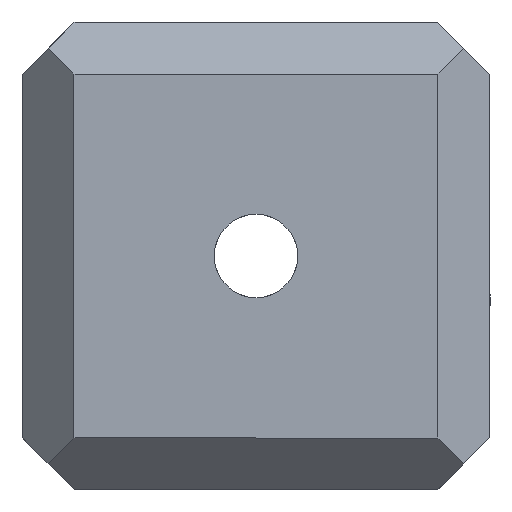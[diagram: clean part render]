
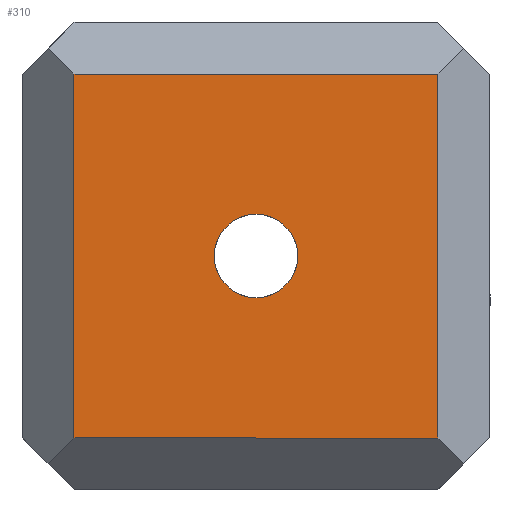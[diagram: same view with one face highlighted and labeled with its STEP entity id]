
A CAD part, left-side view. The second image highlights one B-rep face of the part: STEP entity #310.
In plain terms, the highlighted planar face has unit normal (-1, 0, 0).
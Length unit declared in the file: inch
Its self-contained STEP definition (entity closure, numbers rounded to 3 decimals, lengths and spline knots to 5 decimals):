
#27 = CIRCLE ( 'NONE', #2111, 0.1005 ) ;
#48 = DIRECTION ( 'NONE',  ( -1., 0., 0. ) ) ;
#53 = CARTESIAN_POINT ( 'NONE',  ( -0.5625, 0., 0. ) ) ;
#76 = DIRECTION ( 'NONE',  ( 0., 0., 1. ) ) ;
#179 = VECTOR ( 'NONE', #237, 39.37008 ) ;
#233 = DIRECTION ( 'NONE',  ( 0., -1., 0. ) ) ;
#237 = DIRECTION ( 'NONE',  ( 0., 0., -1. ) ) ;
#251 = CARTESIAN_POINT ( 'NONE',  ( -0.5625, 0., 0.4375 ) ) ;
#310 = ADVANCED_FACE ( 'NONE', ( #1618, #1835 ), #1385, .T. ) ;
#349 = CARTESIAN_POINT ( 'NONE',  ( -0.5625, 0.4375, 0. ) ) ;
#393 = VERTEX_POINT ( 'NONE', #894 ) ;
#427 = VECTOR ( 'NONE', #1506, 39.37008 ) ;
#464 = CARTESIAN_POINT ( 'NONE',  ( -0.5625, -0.4375, 0.4375 ) ) ;
#551 = CARTESIAN_POINT ( 'NONE',  ( -0.5625, 0.4375, 0.4375 ) ) ;
#576 = EDGE_CURVE ( 'NONE', #1101, #393, #752, .T. ) ;
#716 = EDGE_LOOP ( 'NONE', ( #1632, #901, #1621, #1930 ) ) ;
#749 = EDGE_CURVE ( 'NONE', #774, #1556, #27, .T. ) ;
#752 = LINE ( 'NONE', #349, #179 ) ;
#774 = VERTEX_POINT ( 'NONE', #1810 ) ;
#802 = VERTEX_POINT ( 'NONE', #969 ) ;
#804 = DIRECTION ( 'NONE',  ( 0., -1., 0. ) ) ;
#894 = CARTESIAN_POINT ( 'NONE',  ( -0.5625, 0.4375, -0.4375 ) ) ;
#901 = ORIENTED_EDGE ( 'NONE', *, *, #2234, .T. ) ;
#960 = CARTESIAN_POINT ( 'NONE',  ( -0.5625, -0.4375, 0. ) ) ;
#969 = CARTESIAN_POINT ( 'NONE',  ( -0.5625, -0.4375, -0.4375 ) ) ;
#1013 = LINE ( 'NONE', #960, #1579 ) ;
#1079 = AXIS2_PLACEMENT_3D ( 'NONE', #2152, #48, #1864 ) ;
#1101 = VERTEX_POINT ( 'NONE', #551 ) ;
#1114 = EDGE_LOOP ( 'NONE', ( #1843, #1745 ) ) ;
#1201 = EDGE_CURVE ( 'NONE', #393, #802, #1273, .T. ) ;
#1273 = LINE ( 'NONE', #2177, #2250 ) ;
#1300 = VERTEX_POINT ( 'NONE', #464 ) ;
#1305 = DIRECTION ( 'NONE',  ( 0., -1., 0. ) ) ;
#1307 = DIRECTION ( 'NONE',  ( -1., 0., 0. ) ) ;
#1314 = CARTESIAN_POINT ( 'NONE',  ( -0.5625, 0., 0. ) ) ;
#1336 = DIRECTION ( 'NONE',  ( -1., 0., 0. ) ) ;
#1385 = PLANE ( 'NONE',  #2114 ) ;
#1506 = DIRECTION ( 'NONE',  ( 0., 1., 0. ) ) ;
#1556 = VERTEX_POINT ( 'NONE', #2019 ) ;
#1579 = VECTOR ( 'NONE', #76, 39.37008 ) ;
#1583 = EDGE_CURVE ( 'NONE', #1556, #774, #1687, .T. ) ;
#1618 = FACE_BOUND ( 'NONE', #1114, .T. ) ;
#1621 = ORIENTED_EDGE ( 'NONE', *, *, #576, .T. ) ;
#1632 = ORIENTED_EDGE ( 'NONE', *, *, #1688, .T. ) ;
#1687 = CIRCLE ( 'NONE', #1079, 0.1005 ) ;
#1688 = EDGE_CURVE ( 'NONE', #802, #1300, #1013, .T. ) ;
#1745 = ORIENTED_EDGE ( 'NONE', *, *, #749, .F. ) ;
#1810 = CARTESIAN_POINT ( 'NONE',  ( -0.5625, 0., 0.1005 ) ) ;
#1835 = FACE_OUTER_BOUND ( 'NONE', #716, .T. ) ;
#1843 = ORIENTED_EDGE ( 'NONE', *, *, #1583, .F. ) ;
#1864 = DIRECTION ( 'NONE',  ( 0., -1., 0. ) ) ;
#1930 = ORIENTED_EDGE ( 'NONE', *, *, #1201, .T. ) ;
#2019 = CARTESIAN_POINT ( 'NONE',  ( -0.5625, 0., -0.1005 ) ) ;
#2111 = AXIS2_PLACEMENT_3D ( 'NONE', #53, #1336, #233 ) ;
#2114 = AXIS2_PLACEMENT_3D ( 'NONE', #1314, #1307, #1305 ) ;
#2133 = LINE ( 'NONE', #251, #427 ) ;
#2152 = CARTESIAN_POINT ( 'NONE',  ( -0.5625, 0., 0. ) ) ;
#2177 = CARTESIAN_POINT ( 'NONE',  ( -0.5625, 0., -0.4375 ) ) ;
#2234 = EDGE_CURVE ( 'NONE', #1300, #1101, #2133, .T. ) ;
#2250 = VECTOR ( 'NONE', #804, 39.37008 ) ;
